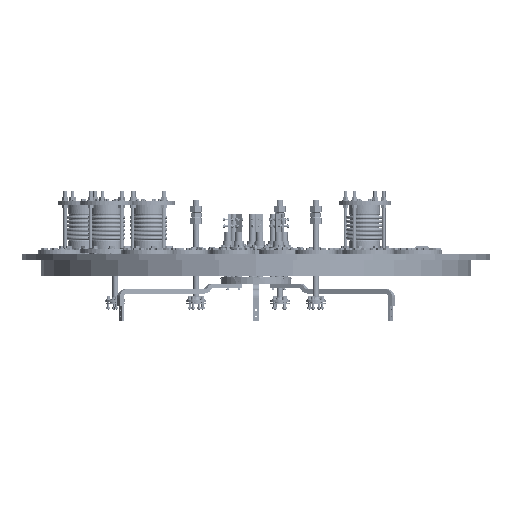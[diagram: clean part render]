
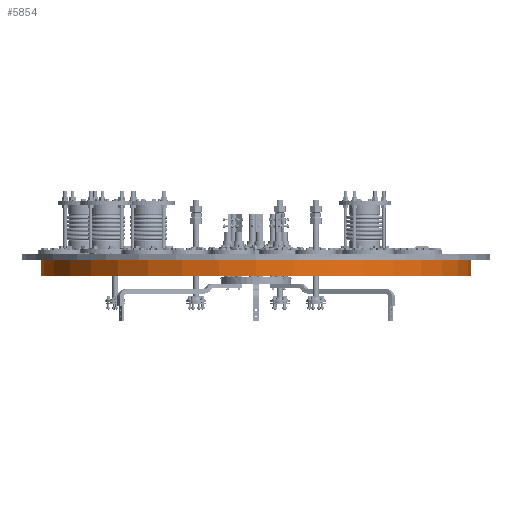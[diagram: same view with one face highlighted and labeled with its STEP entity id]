
A CAD part, front view. The second image highlights one B-rep face of the part: STEP entity #5854.
In plain terms, the highlighted cylindrical face has radius 990 mm (diameter 1980 mm), a partial arc.
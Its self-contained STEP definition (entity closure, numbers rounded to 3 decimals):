
#420=CARTESIAN_POINT('Vertex',(-990.,0.,-70.)) ;
#422=CARTESIAN_POINT('Vertex',(990.,0.,-70.)) ;
#425=CARTESIAN_POINT('Axis2P3D Location',(0.,0.,-70.)) ;
#5812=CARTESIAN_POINT('Axis2P3D Location',(0.,0.,-35.)) ;
#5817=CARTESIAN_POINT('Line Origine',(-990.,0.,-35.)) ;
#5821=CARTESIAN_POINT('Vertex',(-990.,0.,0.)) ;
#5828=CARTESIAN_POINT('Vertex',(990.,0.,0.)) ;
#5831=CARTESIAN_POINT('Line Origine',(990.,0.,-35.)) ;
#5843=CARTESIAN_POINT('Axis2P3D Location',(0.,0.,0.)) ;
#426=DIRECTION('Axis2P3D Direction',(0.,0.,-1.)) ;
#5813=DIRECTION('Axis2P3D Direction',(0.,0.,-1.)) ;
#5814=DIRECTION('Axis2P3D XDirection',(1.,0.,0.)) ;
#5818=DIRECTION('Vector Direction',(0.,0.,-1.)) ;
#5832=DIRECTION('Vector Direction',(0.,0.,-1.)) ;
#5844=DIRECTION('Axis2P3D Direction',(0.,0.,-1.)) ;
#427=AXIS2_PLACEMENT_3D('Circle Axis2P3D',#425,#426,$) ;
#5815=AXIS2_PLACEMENT_3D('Cylinder Axis2P3D',#5812,#5813,#5814) ;
#5845=AXIS2_PLACEMENT_3D('Circle Axis2P3D',#5843,#5844,$) ;
#5849=ORIENTED_EDGE('',*,*,#5835,.F.) ;
#5850=ORIENTED_EDGE('',*,*,#5847,.T.) ;
#5851=ORIENTED_EDGE('',*,*,#5823,.T.) ;
#5852=ORIENTED_EDGE('',*,*,#429,.F.) ;
#5819=VECTOR('Line Direction',#5818,1.) ;
#5833=VECTOR('Line Direction',#5832,1.) ;
#5854=ADVANCED_FACE('PartBody',(#5853),#5816,.T.) ;
#428=CIRCLE('generated circle',#427,990.) ;
#5846=CIRCLE('generated circle',#5845,990.) ;
#5816=CYLINDRICAL_SURFACE('generated cylinder',#5815,990.) ;
#429=EDGE_CURVE('',#423,#421,#428,.T.) ;
#5823=EDGE_CURVE('',#5822,#421,#5820,.T.) ;
#5835=EDGE_CURVE('',#5829,#423,#5834,.T.) ;
#5847=EDGE_CURVE('',#5829,#5822,#5846,.T.) ;
#5848=EDGE_LOOP('',(#5849,#5850,#5851,#5852)) ;
#5853=FACE_OUTER_BOUND('',#5848,.T.) ;
#5820=LINE('Line',#5817,#5819) ;
#5834=LINE('Line',#5831,#5833) ;
#421=VERTEX_POINT('',#420) ;
#423=VERTEX_POINT('',#422) ;
#5822=VERTEX_POINT('',#5821) ;
#5829=VERTEX_POINT('',#5828) ;
